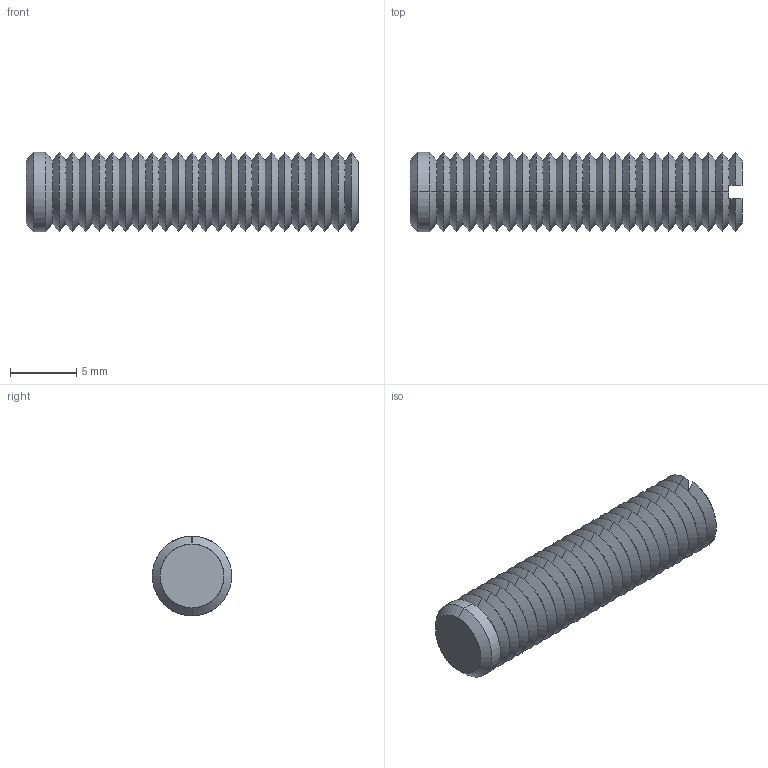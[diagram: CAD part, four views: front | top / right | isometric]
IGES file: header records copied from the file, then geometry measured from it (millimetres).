
Start section: SolidWorks IGES file using analytic representation for surfaces
Global section: file name: C:\Documents and Settings\IANO\Desktop\Temp File\Process pending\EXISTING\34300_v2\34300_v2_20170622_IGES\34300.W0061.igs; native system: SolidWorks 2009; preprocessor: SolidWorks 2009; author: IANO; date: 170622.093544; units: millimetre
Bounding box: 25 x 6 x 6 mm (x, y, z)
Surface area: 709.5 mm2 (no closed solid volume)
Topology: 0 solids, 0 shells, 104 faces, 480 edges, 480 vertices
Faces by surface type: revolution 98, bspline 6
